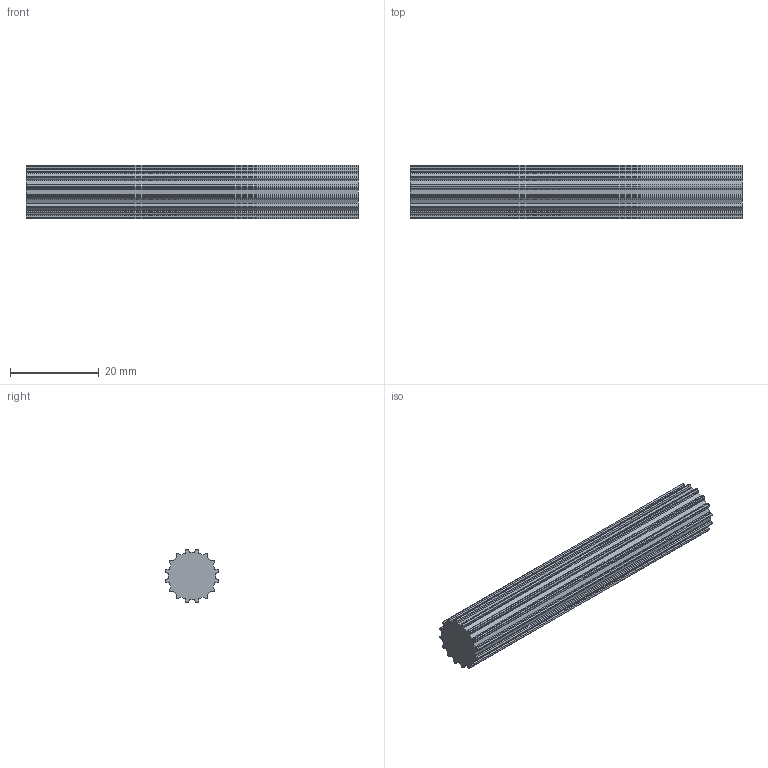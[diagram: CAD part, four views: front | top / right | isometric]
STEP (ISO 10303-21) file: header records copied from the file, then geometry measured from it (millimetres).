
FILE_DESCRIPTION( ( 'STEP AP214' ), '1' );
FILE_NAME( 'C:/Users/StangenbergN/Documents/CAD_Step/1/16091600.stp', '2019-07-25T19:40:53', ( '' ), ( '' ), ' ', 'PARTsolutions', ' ' );
FILE_SCHEMA( ( 'AUTOMOTIVE_DESIGN { 1 0 10303 214 1 1 1 1 }' ) );
Length unit declared in the file: millimetre
Products named in the file (1): _16091600
Bounding box: 75 x 12.03 x 12.03 mm (x, y, z)
Volume: 7464.1 mm3; surface area: 3944.4 mm2
Topology: 1 solids, 1 shells, 130 faces, 384 edges, 256 vertices
Faces by surface type: cylinder 80, plane 50
Entity records: 5464 total; most frequent: DIRECTION 806, CARTESIAN_POINT 771, ORIENTED_EDGE 768, EDGE_CURVE 384, AXIS2_PLACEMENT_3D 291, VERTEX_POINT 256, LINE 224, VECTOR 224
